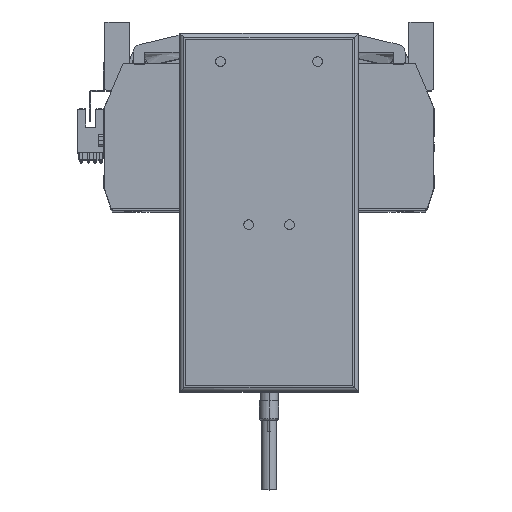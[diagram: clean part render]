
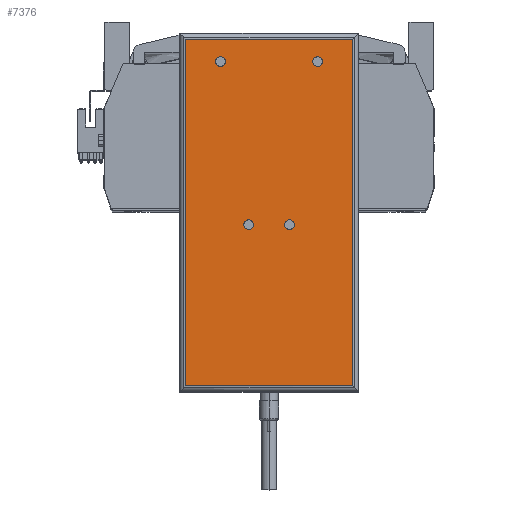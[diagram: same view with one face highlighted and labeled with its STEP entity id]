
A CAD part, top view. The second image highlights one B-rep face of the part: STEP entity #7376.
In plain terms, the highlighted planar face has unit normal (0, 0, 1) as drawn and (0, 0, -1) by its records, which use the part's own axes.
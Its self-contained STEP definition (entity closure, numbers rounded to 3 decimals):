
#23 = EDGE_CURVE ( 'NONE', #41094, #14530, #26915, .T. ) ;
#124 = CIRCLE ( 'NONE', #7944, 2.5 ) ;
#261 = CARTESIAN_POINT ( 'NONE',  ( 10.5, -6.25, 0. ) ) ;
#885 = EDGE_CURVE ( 'NONE', #10644, #35228, #48125, .T. ) ;
#2153 = CARTESIAN_POINT ( 'NONE',  ( -43., -89.25, 0. ) ) ;
#2182 = DIRECTION ( 'NONE',  ( 0., 0., -1. ) ) ;
#4045 = CIRCLE ( 'NONE', #23137, 2.5 ) ;
#4058 = CARTESIAN_POINT ( 'NONE',  ( -10.5, -6.25, 0. ) ) ;
#4241 = AXIS2_PLACEMENT_3D ( 'NONE', #261, #46715, #23456 ) ;
#4985 = AXIS2_PLACEMENT_3D ( 'NONE', #16551, #43343, #39629 ) ;
#5638 = CARTESIAN_POINT ( 'NONE',  ( 27.5, 77.75, 0. ) ) ;
#5798 = FACE_BOUND ( 'NONE', #35492, .T. ) ;
#6171 = CARTESIAN_POINT ( 'NONE',  ( -43., 89.25, 0. ) ) ;
#6463 = CARTESIAN_POINT ( 'NONE',  ( 10.5, -6.25, 0. ) ) ;
#6682 = ORIENTED_EDGE ( 'NONE', *, *, #38226, .F. ) ;
#7376 = ADVANCED_FACE ( 'NONE', ( #16176, #5798, #36784, #35593, #47743 ), #36115, .F. ) ;
#7944 = AXIS2_PLACEMENT_3D ( 'NONE', #32951, #2182, #33281 ) ;
#8182 = DIRECTION ( 'NONE',  ( -1., 0., 0. ) ) ;
#8527 = VECTOR ( 'NONE', #37584, 1000. ) ;
#9231 = VECTOR ( 'NONE', #41365, 1000. ) ;
#10515 = CARTESIAN_POINT ( 'NONE',  ( -13., -6.25, 0. ) ) ;
#10613 = ORIENTED_EDGE ( 'NONE', *, *, #15943, .T. ) ;
#10644 = VERTEX_POINT ( 'NONE', #45471 ) ;
#12082 = DIRECTION ( 'NONE',  ( 0., 0., -1. ) ) ;
#12418 = EDGE_CURVE ( 'NONE', #24861, #20838, #124, .T. ) ;
#12704 = DIRECTION ( 'NONE',  ( 1., 0., 0. ) ) ;
#13965 = DIRECTION ( 'NONE',  ( 0., 0., -1. ) ) ;
#14141 = DIRECTION ( 'NONE',  ( -1., 0., 0. ) ) ;
#14530 = VERTEX_POINT ( 'NONE', #22467 ) ;
#14802 = CIRCLE ( 'NONE', #21349, 2.5 ) ;
#15397 = EDGE_LOOP ( 'NONE', ( #33790, #6682 ) ) ;
#15943 = EDGE_CURVE ( 'NONE', #35228, #28363, #21932, .T. ) ;
#16176 = FACE_OUTER_BOUND ( 'NONE', #26600, .T. ) ;
#16177 = CARTESIAN_POINT ( 'NONE',  ( -25., 77.75, 0. ) ) ;
#16479 = DIRECTION ( 'NONE',  ( 1., 0., 0. ) ) ;
#16551 = CARTESIAN_POINT ( 'NONE',  ( -25., 77.75, 0. ) ) ;
#17424 = ORIENTED_EDGE ( 'NONE', *, *, #28170, .F. ) ;
#17534 = AXIS2_PLACEMENT_3D ( 'NONE', #35731, #27413, #20130 ) ;
#17592 = ORIENTED_EDGE ( 'NONE', *, *, #885, .T. ) ;
#17847 = CARTESIAN_POINT ( 'NONE',  ( -27.5, 77.75, 0. ) ) ;
#19355 = CARTESIAN_POINT ( 'NONE',  ( -46., 89.25, 0. ) ) ;
#20130 = DIRECTION ( 'NONE',  ( -1., 0., 0. ) ) ;
#20258 = CIRCLE ( 'NONE', #4985, 2.5 ) ;
#20838 = VERTEX_POINT ( 'NONE', #5638 ) ;
#21349 = AXIS2_PLACEMENT_3D ( 'NONE', #6463, #13965, #44839 ) ;
#21447 = EDGE_CURVE ( 'NONE', #40557, #35907, #39683, .T. ) ;
#21932 = LINE ( 'NONE', #37927, #8527 ) ;
#21984 = CARTESIAN_POINT ( 'NONE',  ( 13., -6.25, 0. ) ) ;
#22160 = VECTOR ( 'NONE', #32093, 1000. ) ;
#22467 = CARTESIAN_POINT ( 'NONE',  ( -8., -6.25, 0. ) ) ;
#23137 = AXIS2_PLACEMENT_3D ( 'NONE', #29858, #45514, #14141 ) ;
#23328 = DIRECTION ( 'NONE',  ( 0., 0., -1. ) ) ;
#23456 = DIRECTION ( 'NONE',  ( -1., 0., 0. ) ) ;
#23674 = CARTESIAN_POINT ( 'NONE',  ( 43., -92.25, 0. ) ) ;
#23706 = ORIENTED_EDGE ( 'NONE', *, *, #29429, .F. ) ;
#24771 = DIRECTION ( 'NONE',  ( 0., 0., 1. ) ) ;
#24850 = EDGE_CURVE ( 'NONE', #35907, #40557, #14802, .T. ) ;
#24861 = VERTEX_POINT ( 'NONE', #48931 ) ;
#24941 = CARTESIAN_POINT ( 'NONE',  ( -46., -92.25, 0. ) ) ;
#25354 = AXIS2_PLACEMENT_3D ( 'NONE', #24941, #24771, #16479 ) ;
#26600 = EDGE_LOOP ( 'NONE', ( #31915, #17592, #10613, #44702 ) ) ;
#26915 = CIRCLE ( 'NONE', #27045, 2.5 ) ;
#27045 = AXIS2_PLACEMENT_3D ( 'NONE', #4058, #23328, #8182 ) ;
#27413 = DIRECTION ( 'NONE',  ( 0., 0., -1. ) ) ;
#28170 = EDGE_CURVE ( 'NONE', #14530, #41094, #47279, .T. ) ;
#28363 = VERTEX_POINT ( 'NONE', #6171 ) ;
#29228 = VERTEX_POINT ( 'NONE', #50140 ) ;
#29429 = EDGE_CURVE ( 'NONE', #20838, #24861, #4045, .T. ) ;
#29643 = EDGE_CURVE ( 'NONE', #28363, #29228, #33205, .T. ) ;
#29858 = CARTESIAN_POINT ( 'NONE',  ( 25., 77.75, 0. ) ) ;
#31384 = AXIS2_PLACEMENT_3D ( 'NONE', #16177, #12082, #46752 ) ;
#31915 = ORIENTED_EDGE ( 'NONE', *, *, #41730, .T. ) ;
#32093 = DIRECTION ( 'NONE',  ( 0., -1., 0. ) ) ;
#32538 = ORIENTED_EDGE ( 'NONE', *, *, #21447, .F. ) ;
#32650 = CARTESIAN_POINT ( 'NONE',  ( 8., -6.25, 0. ) ) ;
#32951 = CARTESIAN_POINT ( 'NONE',  ( 25., 77.75, 0. ) ) ;
#33205 = LINE ( 'NONE', #19355, #39331 ) ;
#33281 = DIRECTION ( 'NONE',  ( -1., 0., 0. ) ) ;
#33790 = ORIENTED_EDGE ( 'NONE', *, *, #34763, .F. ) ;
#34763 = EDGE_CURVE ( 'NONE', #35264, #48772, #20258, .T. ) ;
#35228 = VERTEX_POINT ( 'NONE', #2153 ) ;
#35255 = ORIENTED_EDGE ( 'NONE', *, *, #24850, .F. ) ;
#35264 = VERTEX_POINT ( 'NONE', #17847 ) ;
#35492 = EDGE_LOOP ( 'NONE', ( #46011, #17424 ) ) ;
#35593 = FACE_BOUND ( 'NONE', #15397, .T. ) ;
#35731 = CARTESIAN_POINT ( 'NONE',  ( -10.5, -6.25, 0. ) ) ;
#35907 = VERTEX_POINT ( 'NONE', #32650 ) ;
#36115 = PLANE ( 'NONE',  #25354 ) ;
#36413 = CARTESIAN_POINT ( 'NONE',  ( -22.5, 77.75, 0. ) ) ;
#36784 = FACE_BOUND ( 'NONE', #38524, .T. ) ;
#37444 = CARTESIAN_POINT ( 'NONE',  ( -46., -89.25, 0. ) ) ;
#37584 = DIRECTION ( 'NONE',  ( 0., 1., 0. ) ) ;
#37927 = CARTESIAN_POINT ( 'NONE',  ( -43., -92.25, 0. ) ) ;
#38226 = EDGE_CURVE ( 'NONE', #48772, #35264, #44916, .T. ) ;
#38524 = EDGE_LOOP ( 'NONE', ( #35255, #32538 ) ) ;
#39331 = VECTOR ( 'NONE', #12704, 1000. ) ;
#39629 = DIRECTION ( 'NONE',  ( -1., 0., 0. ) ) ;
#39683 = CIRCLE ( 'NONE', #4241, 2.5 ) ;
#40557 = VERTEX_POINT ( 'NONE', #21984 ) ;
#41094 = VERTEX_POINT ( 'NONE', #10515 ) ;
#41365 = DIRECTION ( 'NONE',  ( -1., 0., 0. ) ) ;
#41562 = LINE ( 'NONE', #23674, #22160 ) ;
#41730 = EDGE_CURVE ( 'NONE', #29228, #10644, #41562, .T. ) ;
#43343 = DIRECTION ( 'NONE',  ( 0., 0., -1. ) ) ;
#44702 = ORIENTED_EDGE ( 'NONE', *, *, #29643, .T. ) ;
#44839 = DIRECTION ( 'NONE',  ( -1., 0., 0. ) ) ;
#44916 = CIRCLE ( 'NONE', #31384, 2.5 ) ;
#45471 = CARTESIAN_POINT ( 'NONE',  ( 43., -89.25, 0. ) ) ;
#45514 = DIRECTION ( 'NONE',  ( 0., 0., -1. ) ) ;
#45643 = ORIENTED_EDGE ( 'NONE', *, *, #12418, .F. ) ;
#46011 = ORIENTED_EDGE ( 'NONE', *, *, #23, .F. ) ;
#46715 = DIRECTION ( 'NONE',  ( 0., 0., -1. ) ) ;
#46752 = DIRECTION ( 'NONE',  ( -1., 0., 0. ) ) ;
#47279 = CIRCLE ( 'NONE', #17534, 2.5 ) ;
#47743 = FACE_BOUND ( 'NONE', #49927, .T. ) ;
#48125 = LINE ( 'NONE', #37444, #9231 ) ;
#48772 = VERTEX_POINT ( 'NONE', #36413 ) ;
#48931 = CARTESIAN_POINT ( 'NONE',  ( 22.5, 77.75, 0. ) ) ;
#49927 = EDGE_LOOP ( 'NONE', ( #45643, #23706 ) ) ;
#50140 = CARTESIAN_POINT ( 'NONE',  ( 43., 89.25, 0. ) ) ;
